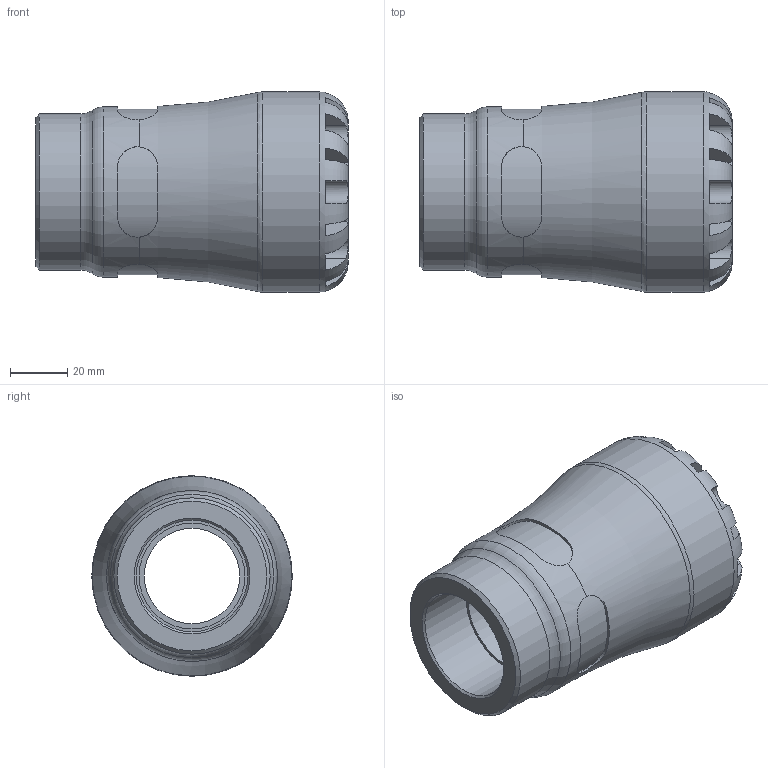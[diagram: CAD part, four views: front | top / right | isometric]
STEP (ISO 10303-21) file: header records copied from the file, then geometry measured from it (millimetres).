
FILE_DESCRIPTION(/* description */ ('PLASSON FEMALE INTEGRAL BRASS THREAD 40X1.1/4" SERIES 1'),/* implementation_level */ '2;1');
FILE_NAME(/* name */ 'C:\Dropbox\KIMPROJECTS-Inventor\99-16-3568-Processing\1073\107300040013_197300040013.ipt.stp',/* time_stamp */ '2017-01-22T11:35:38+02:00',/* author */ ('KIM'),/* organization */ (''),/* preprocessor_version */ 'ST-DEVELOPER v15.6',/* originating_system */ 'Autodesk Inventor 2015',/* authorisation */ '');
FILE_SCHEMA (('AUTOMOTIVE_DESIGN { 1 0 10303 214 3 1 1 }'));
Length unit declared in the file: millimetre
Products named in the file (1): 107300040013_197300040013
Bounding box: 109 x 70 x 70 mm (x, y, z)
Volume: 199258.3 mm3; surface area: 40553.9 mm2
Topology: 1 solids, 1 shells, 104 faces, 265 edges, 166 vertices
Faces by surface type: plane 61, cylinder 35, torus 5, cone 3
Full cylindrical faces by diameter (mm): 33.333 x1, 37.004 x1, 38.952 x1, 40 x1, 54.6 x1, 59.5 x1, 70 x1
Entity records: 3860 total; most frequent: CARTESIAN_POINT 1473, ORIENTED_EDGE 492, DIRECTION 478, EDGE_CURVE 246, AXIS2_PLACEMENT_3D 199, VERTEX_POINT 162, EDGE_LOOP 124, FACE_OUTER_BOUND 104
